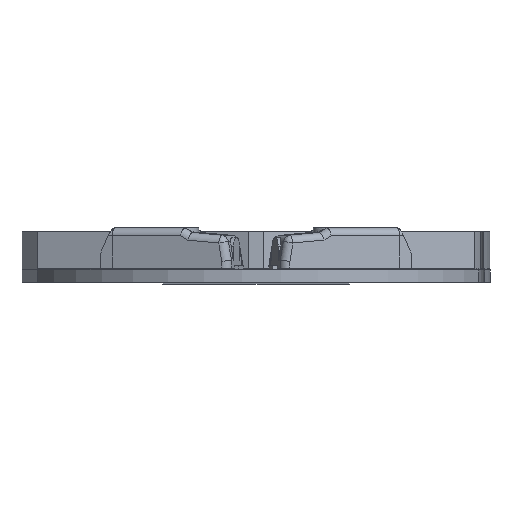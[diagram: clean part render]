
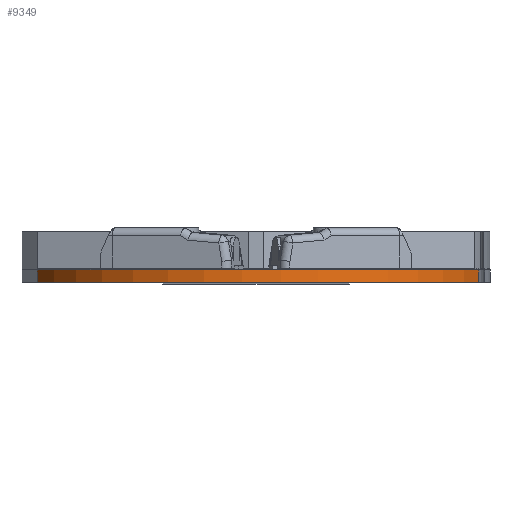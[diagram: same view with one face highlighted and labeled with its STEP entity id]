
A CAD part, left-side view. The second image highlights one B-rep face of the part: STEP entity #9349.
In plain terms, the highlighted cylindrical face has radius 15.399 mm (diameter 30.799 mm), a partial arc.
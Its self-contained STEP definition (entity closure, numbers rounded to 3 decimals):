
#730 = CARTESIAN_POINT ( 'NONE',  ( -4.77, -14.643, -0.8 ) ) ;
#2749 = DIRECTION ( 'NONE',  ( 0., 0., 1. ) ) ;
#2922 = EDGE_CURVE ( 'NONE', #28977, #24777, #37027, .T. ) ;
#6580 = CARTESIAN_POINT ( 'NONE',  ( -5.444, 14.404, 0. ) ) ;
#7818 = CARTESIAN_POINT ( 'NONE',  ( 0.001, -0.001, -0.8 ) ) ;
#7834 = VERTEX_POINT ( 'NONE', #52070 ) ;
#9159 = DIRECTION ( 'NONE',  ( 0., 0., 1. ) ) ;
#9349 = ADVANCED_FACE ( 'NONE', ( #15352 ), #65654, .T. ) ;
#9505 = DIRECTION ( 'NONE',  ( 1., 0., 0. ) ) ;
#10174 = CARTESIAN_POINT ( 'NONE',  ( -5.444, 14.404, -0.8 ) ) ;
#10572 = CARTESIAN_POINT ( 'NONE',  ( -4.77, -14.643, 0. ) ) ;
#11318 = DIRECTION ( 'NONE',  ( 0., 0., 1. ) ) ;
#12155 = VERTEX_POINT ( 'NONE', #10572 ) ;
#15352 = FACE_OUTER_BOUND ( 'NONE', #37311, .T. ) ;
#15917 = CIRCLE ( 'NONE', #46397, 15.399 ) ;
#18471 = AXIS2_PLACEMENT_3D ( 'NONE', #7818, #2749, #65779 ) ;
#18811 = ORIENTED_EDGE ( 'NONE', *, *, #70324, .F. ) ;
#24777 = VERTEX_POINT ( 'NONE', #6580 ) ;
#24924 = VECTOR ( 'NONE', #11318, 1000. ) ;
#25371 = ORIENTED_EDGE ( 'NONE', *, *, #2922, .F. ) ;
#27485 = LINE ( 'NONE', #730, #24924 ) ;
#28977 = VERTEX_POINT ( 'NONE', #67365 ) ;
#31700 = DIRECTION ( 'NONE',  ( 0., 0., 1. ) ) ;
#37027 = LINE ( 'NONE', #10174, #60791 ) ;
#37311 = EDGE_LOOP ( 'NONE', ( #18811, #25371, #52729, #46058 ) ) ;
#41999 = CIRCLE ( 'NONE', #18471, 15.399 ) ;
#46058 = ORIENTED_EDGE ( 'NONE', *, *, #63097, .T. ) ;
#46397 = AXIS2_PLACEMENT_3D ( 'NONE', #59600, #31700, #59953 ) ;
#52070 = CARTESIAN_POINT ( 'NONE',  ( -4.77, -14.643, -0.8 ) ) ;
#52729 = ORIENTED_EDGE ( 'NONE', *, *, #59817, .T. ) ;
#57903 = AXIS2_PLACEMENT_3D ( 'NONE', #60531, #9159, #9505 ) ;
#59393 = DIRECTION ( 'NONE',  ( 0., 0., 1. ) ) ;
#59600 = CARTESIAN_POINT ( 'NONE',  ( 0.001, -0.001, 0. ) ) ;
#59817 = EDGE_CURVE ( 'NONE', #28977, #7834, #41999, .T. ) ;
#59953 = DIRECTION ( 'NONE',  ( 1., 0., 0. ) ) ;
#60531 = CARTESIAN_POINT ( 'NONE',  ( 0.001, -0.001, -0.8 ) ) ;
#60791 = VECTOR ( 'NONE', #59393, 1000. ) ;
#63097 = EDGE_CURVE ( 'NONE', #7834, #12155, #27485, .T. ) ;
#65654 = CYLINDRICAL_SURFACE ( 'NONE', #57903, 15.399 ) ;
#65779 = DIRECTION ( 'NONE',  ( 1., 0., 0. ) ) ;
#67365 = CARTESIAN_POINT ( 'NONE',  ( -5.444, 14.404, -0.8 ) ) ;
#70324 = EDGE_CURVE ( 'NONE', #24777, #12155, #15917, .T. ) ;
